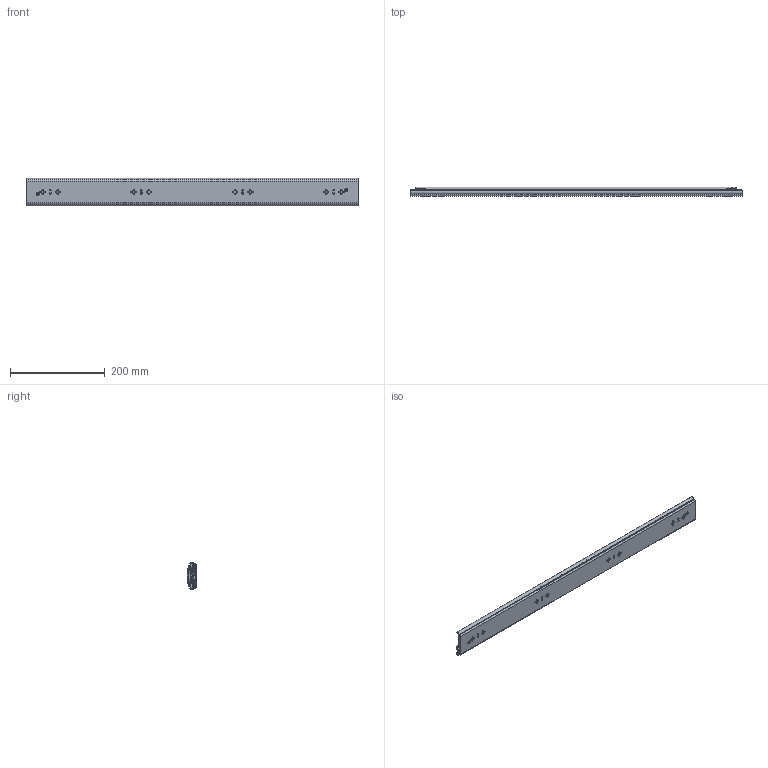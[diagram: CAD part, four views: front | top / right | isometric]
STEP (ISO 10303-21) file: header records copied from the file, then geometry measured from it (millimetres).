
FILE_DESCRIPTION((''),'2;1');
FILE_NAME('1057-C-28_ASM','2025-10-24T',('蔽翩'),(''),'CREO PARAMETRIC BY PTC INC, 2018220','CREO PARAMETRIC BY PTC INC, 2018220','');
FILE_SCHEMA(('CONFIG_CONTROL_DESIGN'));
Products named in the file (21): KP-57-01WEIKE-31____; MAODING-WAI____; 1057DAZHUJIA-20GE1____; 1057ZHUJIADANWEIJIAO123; 1057-5-6GANZHU1____; 1057DAZHUJIA-20GE_11________ASM; 1057-C-20-KE_____ASM; KP-57-01ZHONGGUI-28_________; PEIJIAN-22____; ZHUANJIAO112____; LIUJIAO-DING11____; MAODING-P____; 1057-XIAOJIAOLUN28; PEIJIAN-ZHONG_____ASM; 1057XIAOZHUJIA___20_____; 1057XIAOZHUJIA-20GE______ASM; KP-57-01ZHONGGUI-28__________ASM; KP-57-01NEIGUI-241____; XIN-JIAOGUAN28; KP-57-01NEIGUI-241_____ASM; 1057-C-28_ASM
Assembly tree (115 placements, depth 4):
  1057-C-28_ASM
    1057-C-20-KE_____ASM
      KP-57-01WEIKE-31____
      MAODING-WAI____  x2
      1057DAZHUJIA-20GE_11________ASM
        1057DAZHUJIA-20GE1____
        1057ZHUJIADANWEIJIAO123  x2
        1057-5-6GANZHU1____  x44
    KP-57-01ZHONGGUI-28__________ASM
      KP-57-01ZHONGGUI-28_________
      PEIJIAN-ZHONG_____ASM  x2
        PEIJIAN-22____
        ZHUANJIAO112____
        LIUJIAO-DING11____
        MAODING-P____
        1057-XIAOJIAOLUN28
      MAODING-WAI____  x2
      1057XIAOZHUJIA-20GE______ASM
        1057XIAOZHUJIA___20_____
        1057-5-6GANZHU1____  x44
        1057ZHUJIADANWEIJIAO123  x2
    KP-57-01NEIGUI-241_____ASM
      KP-57-01NEIGUI-241____
      XIN-JIAOGUAN28  x2
Bounding box: 700 x 19.8 x 57.67 mm (x, y, z)
Volume: 295610.1 mm3; surface area: 342475 mm2
Topology: 113 solids, 113 shells, 3064 faces, 8460 edges, 5264 vertices
Faces by surface type: plane 1370, cylinder 1228, sphere 182, bspline 98, torus 96, cone 82, extrusion 8
Entity records: 84923 total; most frequent: CARTESIAN_POINT 18195, DIRECTION 14174, ORIENTED_EDGE 13810, EDGE_CURVE 6905, AXIS2_PLACEMENT_3D 4914, VERTEX_POINT 4446, VECTOR 4346, LINE 4342
